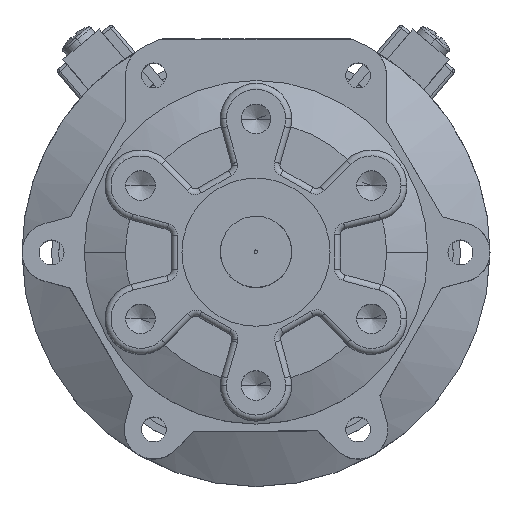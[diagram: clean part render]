
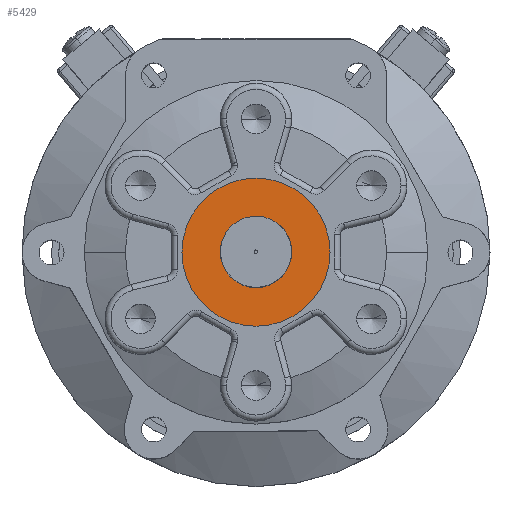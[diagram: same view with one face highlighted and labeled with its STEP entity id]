
A CAD part, top view. The second image highlights one B-rep face of the part: STEP entity #5429.
In plain terms, the highlighted planar face has unit normal (0, 0, 1).
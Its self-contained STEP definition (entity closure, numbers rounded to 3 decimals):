
#36 = DIRECTION ( 'NONE',  ( 1., 0., 0. ) ) ;
#347 = CIRCLE ( 'NONE', #9985, 12.5 ) ;
#1183 = EDGE_CURVE ( 'NONE', #22327, #2692, #26681, .T. ) ;
#2348 = ORIENTED_EDGE ( 'NONE', *, *, #15773, .T. ) ;
#2433 = CARTESIAN_POINT ( 'NONE',  ( 0., 0., 0. ) ) ;
#2692 = VERTEX_POINT ( 'NONE', #12077 ) ;
#3747 = DIRECTION ( 'NONE',  ( 1., 0., 0. ) ) ;
#3869 = ORIENTED_EDGE ( 'NONE', *, *, #24900, .F. ) ;
#5429 = ADVANCED_FACE ( 'NONE', ( #15932, #22473 ), #25208, .T. ) ;
#5985 = EDGE_LOOP ( 'NONE', ( #20373, #2348 ) ) ;
#8165 = EDGE_LOOP ( 'NONE', ( #18210, #3869 ) ) ;
#8435 = CARTESIAN_POINT ( 'NONE',  ( 0., 0., 0. ) ) ;
#8856 = CARTESIAN_POINT ( 'NONE',  ( -12.5, 0., 0. ) ) ;
#8898 = DIRECTION ( 'NONE',  ( 0., 0., 1. ) ) ;
#9985 = AXIS2_PLACEMENT_3D ( 'NONE', #10209, #24877, #3747 ) ;
#10209 = CARTESIAN_POINT ( 'NONE',  ( 0., 0., 0. ) ) ;
#11667 = CIRCLE ( 'NONE', #23589, 6. ) ;
#12077 = CARTESIAN_POINT ( 'NONE',  ( -6., 0., 0. ) ) ;
#12509 = AXIS2_PLACEMENT_3D ( 'NONE', #23732, #8898, #17023 ) ;
#12660 = DIRECTION ( 'NONE',  ( 0., 0., 1. ) ) ;
#14053 = AXIS2_PLACEMENT_3D ( 'NONE', #2433, #12660, #36 ) ;
#14648 = DIRECTION ( 'NONE',  ( 1., 0., 0. ) ) ;
#15773 = EDGE_CURVE ( 'NONE', #24527, #24156, #16969, .T. ) ;
#15932 = FACE_BOUND ( 'NONE', #8165, .T. ) ;
#16457 = CARTESIAN_POINT ( 'NONE',  ( 6., 0., 0. ) ) ;
#16969 = CIRCLE ( 'NONE', #12509, 12.5 ) ;
#17023 = DIRECTION ( 'NONE',  ( 1., 0., 0. ) ) ;
#18210 = ORIENTED_EDGE ( 'NONE', *, *, #1183, .F. ) ;
#18555 = DIRECTION ( 'NONE',  ( 1., 0., 0. ) ) ;
#19596 = AXIS2_PLACEMENT_3D ( 'NONE', #23070, #20728, #14648 ) ;
#20373 = ORIENTED_EDGE ( 'NONE', *, *, #20815, .T. ) ;
#20728 = DIRECTION ( 'NONE',  ( 0., 0., 1. ) ) ;
#20815 = EDGE_CURVE ( 'NONE', #24156, #24527, #347, .T. ) ;
#22327 = VERTEX_POINT ( 'NONE', #16457 ) ;
#22473 = FACE_OUTER_BOUND ( 'NONE', #5985, .T. ) ;
#23070 = CARTESIAN_POINT ( 'NONE',  ( 0., 0., 0. ) ) ;
#23589 = AXIS2_PLACEMENT_3D ( 'NONE', #8435, #25213, #18555 ) ;
#23732 = CARTESIAN_POINT ( 'NONE',  ( 0., 0., 0. ) ) ;
#23905 = CARTESIAN_POINT ( 'NONE',  ( 12.5, 0., 0. ) ) ;
#24156 = VERTEX_POINT ( 'NONE', #23905 ) ;
#24527 = VERTEX_POINT ( 'NONE', #8856 ) ;
#24877 = DIRECTION ( 'NONE',  ( 0., 0., 1. ) ) ;
#24900 = EDGE_CURVE ( 'NONE', #2692, #22327, #11667, .T. ) ;
#25208 = PLANE ( 'NONE',  #19596 ) ;
#25213 = DIRECTION ( 'NONE',  ( 0., 0., 1. ) ) ;
#26681 = CIRCLE ( 'NONE', #14053, 6. ) ;
